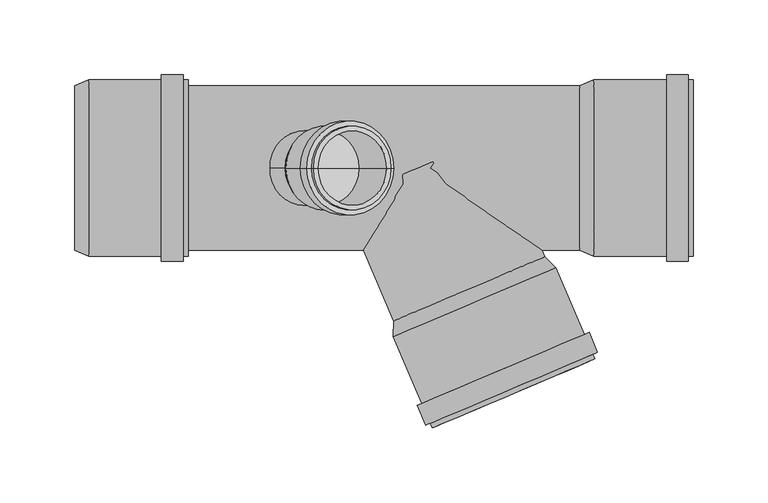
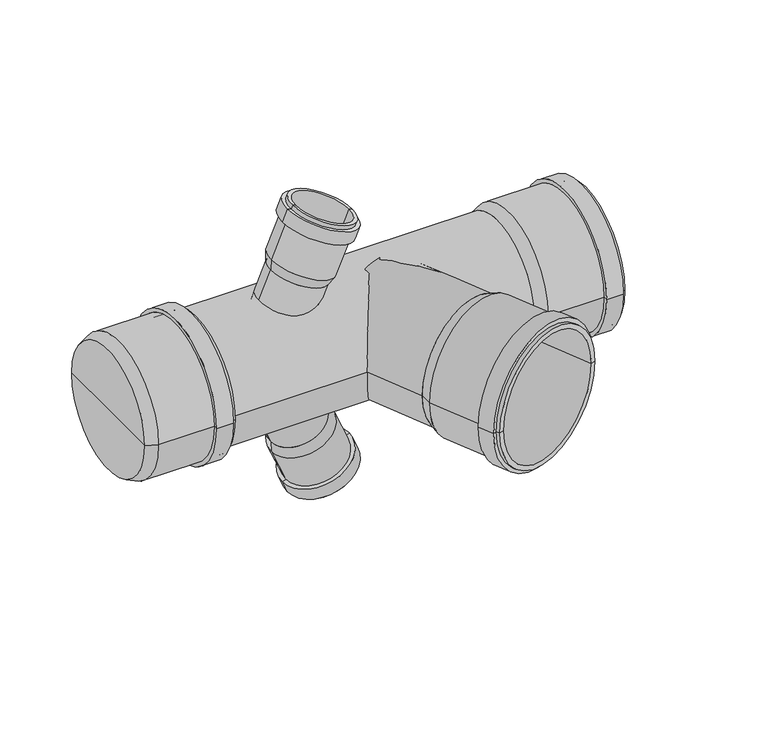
"""IFC4 building model written with IfcOpenShell, lengths in millimetres: pipe fitting geometry, pf_HTEPt : pf_HTEPt."""

from ifc_helpers import new_model, si_unit, point, frame, origin, origin_2d, place, context, project, spatial, polyline, circle_curve, trimmed, segment, composite_curve, outline, extrude, source, transform, mapped, element, save
from ifc_brep_helpers import plane_surface, cylinder_surface, revolved_surface, advanced_brep


def pipe_fitting_034da0cb(model_context):
    return source(origin(), model_context, "Body", "SolidModel", [
        advanced_brep(
        [(-42.782544, 0.0, 59.2695858), (-88.8077867, 0.0, 78.8061422), (-88.3401372, 0.0, 87.8417), (-36.6077644, 0.0, 65.8826106), (-65.7951654, 0.0, 69.037864), (-18.0480358, 0.0, 109.6065911), (-69.7804085, 0.0, 131.5656805), (-66.9268435, 0.0, 130.354414), (-20.9016008, 0.0, 110.8178576), (-19.3765216, 0.0, 106.4768746), (-71.1088944, 0.0, 128.435964), (-16.2468051, 0.0, 105.1483888), (-74.2386109, 0.0, 129.7644498), (-20.70114, 0.0, 94.6546334), (-78.6929458, 0.0, 119.2706945), (-23.8308565, 0.0, 95.9831193), (-75.5632293, 0.0, 117.9422087), (-39.4613294, 0.0, 67.0938771), (-85.4865721, 0.0, 86.6304335), (-62.4739508, 0.0, 76.8621553)],
        [
            (0, 1, circle_curve(frame((-65.7951654, 0.0, 69.037864), z_axis=(0.39073112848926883, 0.0, 0.9205048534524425), x_axis=(-0.9205048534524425, 0.0, 0.39073112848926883)), 25.0)),
            (1, 2),
            (2, 3, circle_curve(frame((-62.4739508, 0.0, 76.8621553), z_axis=(-0.39073112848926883, 0.0, -0.9205048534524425), x_axis=(-0.9205048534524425, 0.0, 0.39073112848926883)), 28.1)),
            (3, 0),
            (1, 0, circle_curve(frame((-65.7951654, 0.0, 69.037864), z_axis=(0.39073112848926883, 0.0, 0.9205048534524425), x_axis=(-0.9205048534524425, 0.0, 0.39073112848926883)), 25.0)),
            (3, 2, circle_curve(frame((-62.4739508, 0.0, 76.8621553), z_axis=(-0.39073112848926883, 0.0, -0.9205048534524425), x_axis=(-0.9205048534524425, 0.0, 0.39073112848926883)), 28.1)),
            (4, 1),
            (0, 4),
            (5, 6, circle_curve(frame((-43.9142222, 0.0, 120.5861358), z_axis=(0.39073112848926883, 0.0, 0.9205048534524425), x_axis=(-0.9205048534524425, 0.0, 0.39073112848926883)), 28.1)),
            (6, 7),
            (7, 8, circle_curve(frame((-43.9142222, 0.0, 120.5861358), z_axis=(-0.39073112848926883, 0.0, -0.9205048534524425), x_axis=(-0.9205048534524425, 0.0, 0.39073112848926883)), 25.0)),
            (8, 5),
            (6, 5, circle_curve(frame((-43.9142222, 0.0, 120.5861358), z_axis=(0.39073112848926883, 0.0, 0.9205048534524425), x_axis=(-0.9205048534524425, 0.0, 0.39073112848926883)), 28.1)),
            (8, 7, circle_curve(frame((-43.9142222, 0.0, 120.5861358), z_axis=(-0.39073112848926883, 0.0, -0.9205048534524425), x_axis=(-0.9205048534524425, 0.0, 0.39073112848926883)), 25.0)),
            (9, 10, circle_curve(frame((-45.242708, 0.0, 117.4564193), z_axis=(0.39073112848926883, 0.0, 0.9205048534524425), x_axis=(-0.9205048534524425, 0.0, 0.39073112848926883)), 28.1)),
            (10, 6),
            (5, 9),
            (10, 9, circle_curve(frame((-45.242708, 0.0, 117.4564193), z_axis=(0.39073112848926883, 0.0, 0.9205048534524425), x_axis=(-0.9205048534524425, 0.0, 0.39073112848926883)), 28.1)),
            (11, 12, circle_curve(frame((-45.242708, 0.0, 117.4564193), z_axis=(0.39073112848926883, 0.0, 0.9205048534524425), x_axis=(-0.9205048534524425, 0.0, 0.39073112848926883)), 31.5)),
            (12, 10),
            (9, 11),
            (12, 11, circle_curve(frame((-45.242708, 0.0, 117.4564193), z_axis=(0.39073112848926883, 0.0, 0.9205048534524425), x_axis=(-0.9205048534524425, 0.0, 0.39073112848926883)), 31.5)),
            (13, 14, circle_curve(frame((-49.6970429, 0.0, 106.962664), z_axis=(0.39073112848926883, 0.0, 0.9205048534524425), x_axis=(-0.9205048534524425, 0.0, 0.39073112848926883)), 31.5)),
            (14, 12),
            (11, 13),
            (14, 13, circle_curve(frame((-49.6970429, 0.0, 106.962664), z_axis=(0.39073112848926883, 0.0, 0.9205048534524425), x_axis=(-0.9205048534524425, 0.0, 0.39073112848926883)), 31.5)),
            (15, 16, circle_curve(frame((-49.6970429, 0.0, 106.962664), z_axis=(0.39073112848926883, 0.0, 0.9205048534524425), x_axis=(-0.9205048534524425, 0.0, 0.39073112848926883)), 28.1)),
            (16, 14),
            (13, 15),
            (16, 15, circle_curve(frame((-49.6970429, 0.0, 106.962664), z_axis=(0.39073112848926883, 0.0, 0.9205048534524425), x_axis=(-0.9205048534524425, 0.0, 0.39073112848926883)), 28.1)),
            (2, 16),
            (15, 3),
            (17, 18, circle_curve(frame((-62.4739508, 0.0, 76.8621553), z_axis=(0.39073112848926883, 0.0, 0.9205048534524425), x_axis=(-0.9205048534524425, 0.0, 0.39073112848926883)), 25.0)),
            (18, 19),
            (19, 17),
            (18, 17, circle_curve(frame((-62.4739508, 0.0, 76.8621553), z_axis=(0.39073112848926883, 0.0, 0.9205048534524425), x_axis=(-0.9205048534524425, 0.0, 0.39073112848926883)), 25.0)),
            (7, 18),
            (17, 8),
        ],
        [
            revolved_surface(polyline([(-88.3401372, 0.0, 87.8417), (-88.8077867, 0.0, 78.8061422)]), (-65.7951654, 0.0, 69.037864), (-0.39073112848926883, 0.0, -0.9205048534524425)),
            plane_surface(frame((-65.7951654, 0.0, 69.037864), z_axis=(-0.39073112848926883, 0.0, -0.9205048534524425), x_axis=(-0.9205048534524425, 0.0, 0.39073112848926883))),
            plane_surface(frame((-43.9142222, 0.0, 120.5861358), z_axis=(0.39073112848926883, 0.0, 0.9205048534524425), x_axis=(-0.9205048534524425, 0.0, 0.39073112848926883))),
            cylinder_surface(frame((-65.7951654, 0.0, 69.037864), z_axis=(-0.39073112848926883, 0.0, -0.9205048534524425), x_axis=(-0.9205048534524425, 0.0, 0.39073112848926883)), 28.1),
            plane_surface(frame((-45.242708, 0.0, 117.4564193), z_axis=(0.39073112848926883, 0.0, 0.9205048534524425), x_axis=(-0.9205048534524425, 0.0, 0.39073112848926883))),
            cylinder_surface(frame((-65.7951654, 0.0, 69.037864), z_axis=(-0.39073112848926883, 0.0, -0.9205048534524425), x_axis=(-0.9205048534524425, 0.0, 0.39073112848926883)), 31.5),
            plane_surface(frame((-49.6970429, 0.0, 106.962664), z_axis=(-0.39073112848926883, 0.0, -0.9205048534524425), x_axis=(-0.9205048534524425, 0.0, 0.39073112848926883))),
            plane_surface(frame((-62.4739508, 0.0, 76.8621553), z_axis=(0.39073112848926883, 0.0, 0.9205048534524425), x_axis=(-0.9205048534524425, 0.0, 0.39073112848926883))),
            revolved_surface(polyline([(-85.48657212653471, 0.0, 86.63043350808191), (-66.9268435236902, 0.0, 130.35441404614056)]), (-65.7951654, 0.0, 69.037864), (-0.39073112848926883, 0.0, -0.9205048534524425)),
        ],
        [
            (0, [[1, 2, 3, 4]]),
            (0, [[5, -4, 6, -2]]),
            (1, [[7, -1, 8]]),
            (1, [[-8, -5, -7]]),
            (2, [[9, 10, 11, 12]]),
            (2, [[13, -12, 14, -10]]),
            (3, [[15, 16, -9, 17]]),
            (3, [[18, -17, -13, -16]]),
            (4, [[19, 20, -15, 21]]),
            (4, [[22, -21, -18, -20]]),
            (5, [[23, 24, -19, 25]]),
            (5, [[26, -25, -22, -24]]),
            (6, [[27, 28, -23, 29]]),
            (6, [[30, -29, -26, -28]]),
            (3, [[-3, 31, -27, 32]]),
            (3, [[-6, -32, -30, -31]]),
            (7, [[33, 34, 35]]),
            (7, [[36, -35, -34]]),
            (8, [[-11, 37, -33, 38]]),
            (8, [[-14, -38, -36, -37]]),
        ],
    ),
        advanced_brep(
        [(-88.8077867, 0.0, -78.8061422), (-42.782544, 0.0, -59.2695858), (-36.6077644, 0.0, -65.8826106), (-88.3401372, 0.0, -87.8417), (-65.7951654, 0.0, -69.037864), (-69.7804085, 0.0, -131.5656805), (-18.0480358, 0.0, -109.6065911), (-20.9016008, 0.0, -110.8178576), (-66.9268435, 0.0, -130.354414), (-71.1088944, 0.0, -128.435964), (-19.3765216, 0.0, -106.4768746), (-74.2386109, 0.0, -129.7644498), (-16.2468051, 0.0, -105.1483888), (-78.6929458, 0.0, -119.2706945), (-20.70114, 0.0, -94.6546334), (-75.5632293, 0.0, -117.9422087), (-23.8308565, 0.0, -95.9831193), (-85.4865721, 0.0, -86.6304335), (-39.4613294, 0.0, -67.0938771), (-62.4739508, 0.0, -76.8621553)],
        [
            (0, 1, circle_curve(frame((-65.7951654, 0.0, -69.037864), z_axis=(0.39073112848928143, 0.0, -0.920504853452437), x_axis=(0.920504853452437, 0.0, 0.39073112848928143)), 25.0)),
            (1, 2),
            (2, 3, circle_curve(frame((-62.4739508, 0.0, -76.8621553), z_axis=(-0.39073112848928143, 0.0, 0.920504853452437), x_axis=(0.920504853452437, 0.0, 0.39073112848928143)), 28.1)),
            (3, 0),
            (1, 0, circle_curve(frame((-65.7951654, 0.0, -69.037864), z_axis=(0.39073112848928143, 0.0, -0.920504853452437), x_axis=(0.920504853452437, 0.0, 0.39073112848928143)), 25.0)),
            (3, 2, circle_curve(frame((-62.4739508, 0.0, -76.8621553), z_axis=(-0.39073112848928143, 0.0, 0.920504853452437), x_axis=(0.920504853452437, 0.0, 0.39073112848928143)), 28.1)),
            (4, 1),
            (0, 4),
            (5, 6, circle_curve(frame((-43.9142222, 0.0, -120.5861358), z_axis=(0.39073112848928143, 0.0, -0.920504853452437), x_axis=(0.920504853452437, 0.0, 0.39073112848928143)), 28.1)),
            (6, 7),
            (7, 8, circle_curve(frame((-43.9142222, 0.0, -120.5861358), z_axis=(-0.39073112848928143, 0.0, 0.920504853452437), x_axis=(0.920504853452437, 0.0, 0.39073112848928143)), 25.0)),
            (8, 5),
            (6, 5, circle_curve(frame((-43.9142222, 0.0, -120.5861358), z_axis=(0.39073112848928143, 0.0, -0.920504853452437), x_axis=(0.920504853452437, 0.0, 0.39073112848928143)), 28.1)),
            (8, 7, circle_curve(frame((-43.9142222, 0.0, -120.5861358), z_axis=(-0.39073112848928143, 0.0, 0.920504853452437), x_axis=(0.920504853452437, 0.0, 0.39073112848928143)), 25.0)),
            (9, 10, circle_curve(frame((-45.242708, 0.0, -117.4564193), z_axis=(0.39073112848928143, 0.0, -0.920504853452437), x_axis=(0.920504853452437, 0.0, 0.39073112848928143)), 28.1)),
            (10, 6),
            (5, 9),
            (10, 9, circle_curve(frame((-45.242708, 0.0, -117.4564193), z_axis=(0.39073112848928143, 0.0, -0.920504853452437), x_axis=(0.920504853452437, 0.0, 0.39073112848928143)), 28.1)),
            (11, 12, circle_curve(frame((-45.242708, 0.0, -117.4564193), z_axis=(0.39073112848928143, 0.0, -0.920504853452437), x_axis=(0.920504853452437, 0.0, 0.39073112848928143)), 31.5)),
            (12, 10),
            (9, 11),
            (12, 11, circle_curve(frame((-45.242708, 0.0, -117.4564193), z_axis=(0.39073112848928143, 0.0, -0.920504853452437), x_axis=(0.920504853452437, 0.0, 0.39073112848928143)), 31.5)),
            (13, 14, circle_curve(frame((-49.6970429, 0.0, -106.962664), z_axis=(0.39073112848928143, 0.0, -0.920504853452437), x_axis=(0.920504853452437, 0.0, 0.39073112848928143)), 31.5)),
            (14, 12),
            (11, 13),
            (14, 13, circle_curve(frame((-49.6970429, 0.0, -106.962664), z_axis=(0.39073112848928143, 0.0, -0.920504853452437), x_axis=(0.920504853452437, 0.0, 0.39073112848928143)), 31.5)),
            (15, 16, circle_curve(frame((-49.6970429, 0.0, -106.962664), z_axis=(0.39073112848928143, 0.0, -0.920504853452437), x_axis=(0.920504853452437, 0.0, 0.39073112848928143)), 28.1)),
            (16, 14),
            (13, 15),
            (16, 15, circle_curve(frame((-49.6970429, 0.0, -106.962664), z_axis=(0.39073112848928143, 0.0, -0.920504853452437), x_axis=(0.920504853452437, 0.0, 0.39073112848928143)), 28.1)),
            (2, 16),
            (15, 3),
            (17, 18, circle_curve(frame((-62.4739508, 0.0, -76.8621553), z_axis=(0.39073112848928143, 0.0, -0.920504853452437), x_axis=(0.920504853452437, 0.0, 0.39073112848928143)), 25.0)),
            (18, 19),
            (19, 17),
            (18, 17, circle_curve(frame((-62.4739508, 0.0, -76.8621553), z_axis=(0.39073112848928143, 0.0, -0.920504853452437), x_axis=(0.920504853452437, 0.0, 0.39073112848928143)), 25.0)),
            (7, 18),
            (17, 8),
        ],
        [
            revolved_surface(polyline([(-36.6077644, 0.0, -65.8826106), (-42.782544, 0.0, -59.2695858)]), (-65.7951654, 0.0, -69.037864), (-0.39073112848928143, 0.0, 0.920504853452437)),
            plane_surface(frame((-65.7951654, 0.0, -69.037864), z_axis=(-0.39073112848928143, 0.0, 0.920504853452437), x_axis=(0.920504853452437, 0.0, 0.39073112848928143))),
            plane_surface(frame((-43.9142222, 0.0, -120.5861358), z_axis=(0.39073112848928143, 0.0, -0.920504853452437), x_axis=(0.920504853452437, 0.0, 0.39073112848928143))),
            cylinder_surface(frame((-65.7951654, 0.0, -69.037864), z_axis=(-0.39073112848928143, 0.0, 0.920504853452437), x_axis=(0.920504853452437, 0.0, 0.39073112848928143)), 28.1),
            plane_surface(frame((-45.242708, 0.0, -117.4564193), z_axis=(0.39073112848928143, 0.0, -0.920504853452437), x_axis=(0.920504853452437, 0.0, 0.39073112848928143))),
            cylinder_surface(frame((-65.7951654, 0.0, -69.037864), z_axis=(-0.39073112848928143, 0.0, 0.920504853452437), x_axis=(0.920504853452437, 0.0, 0.39073112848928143)), 31.5),
            plane_surface(frame((-49.6970429, 0.0, -106.962664), z_axis=(-0.39073112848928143, 0.0, 0.920504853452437), x_axis=(0.920504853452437, 0.0, 0.39073112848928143))),
            plane_surface(frame((-62.4739508, 0.0, -76.8621553), z_axis=(0.39073112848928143, 0.0, -0.920504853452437), x_axis=(0.920504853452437, 0.0, 0.39073112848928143))),
            revolved_surface(polyline([(-39.4613294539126, 0.0, -67.0938770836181), (-20.901600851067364, 0.0, -110.81785762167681)]), (-65.7951654, 0.0, -69.037864), (-0.39073112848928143, 0.0, 0.920504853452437)),
        ],
        [
            (0, [[1, 2, 3, 4]]),
            (0, [[5, -4, 6, -2]]),
            (1, [[7, -1, 8]]),
            (1, [[-8, -5, -7]]),
            (2, [[9, 10, 11, 12]]),
            (2, [[13, -12, 14, -10]]),
            (3, [[15, 16, -9, 17]]),
            (3, [[18, -17, -13, -16]]),
            (4, [[19, 20, -15, 21]]),
            (4, [[22, -21, -18, -20]]),
            (5, [[23, 24, -19, 25]]),
            (5, [[26, -25, -22, -24]]),
            (6, [[27, 28, -23, 29]]),
            (6, [[30, -29, -26, -28]]),
            (3, [[-3, 31, -27, 32]]),
            (3, [[-6, -32, -30, -31]]),
            (7, [[33, 34, 35]]),
            (7, [[36, -35, -34]]),
            (8, [[-11, 37, -33, 38]]),
            (8, [[-14, -38, -36, -37]]),
        ],
    ),
        advanced_brep(
        [(-16.2825007, -102.4025887, 0.0), (84.9730331, -59.4221646, 0.0), (92.4590488, -66.564963, 0.0), (-16.3446249, -112.7493824, 0.0), (34.3452662, -80.9123766, 0.0), (9.6389951, -173.9629552, 0.0), (118.4426688, -127.7785358, 0.0), (114.6685989, -129.3805334, 0.0), (13.413065, -172.3609575, 0.0), (8.3105093, -170.8332387, 0.0), (117.114183, -124.6488193, 0.0), (5.1807928, -172.1617245, 0.0), (120.2438995, -123.3203334, 0.0), (-0.4848086, -158.8144041, 0.0), (114.5782981, -109.9730131, 0.0), (2.6449079, -157.4859183, 0.0), (111.4485816, -111.3014989, 0.0), (-12.570555, -111.1473848, 0.0), (88.6849789, -68.1669607, 0.0), (38.0572119, -89.6571727, 0.0)],
        [
            (0, 1, circle_curve(frame((34.3452662, -80.9123766, 0.0), z_axis=(0.3907311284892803, -0.9205048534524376, 0.0), x_axis=(0.9205048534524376, 0.3907311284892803, 0.0)), 55.0)),
            (1, 2),
            (2, 3, circle_curve(frame((38.0572119, -89.6571727, 0.0), z_axis=(-0.3907311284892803, 0.9205048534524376, 0.0), x_axis=(0.9205048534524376, 0.3907311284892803, 0.0)), 59.1)),
            (3, 0),
            (1, 0, circle_curve(frame((34.3452662, -80.9123766, 0.0), z_axis=(0.3907311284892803, -0.9205048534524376, 0.0), x_axis=(0.9205048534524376, 0.3907311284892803, 0.0)), 55.0)),
            (3, 2, circle_curve(frame((38.0572119, -89.6571727, 0.0), z_axis=(-0.3907311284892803, 0.9205048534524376, 0.0), x_axis=(0.9205048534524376, 0.3907311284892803, 0.0)), 59.1)),
            (4, 1),
            (0, 4),
            (5, 6, circle_curve(frame((64.040832, -150.8707455, 0.0), z_axis=(0.3907311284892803, -0.9205048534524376, 0.0), x_axis=(0.9205048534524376, 0.3907311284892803, 0.0)), 59.1)),
            (6, 7),
            (7, 8, circle_curve(frame((64.040832, -150.8707455, 0.0), z_axis=(-0.3907311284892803, 0.9205048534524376, 0.0), x_axis=(0.9205048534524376, 0.3907311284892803, 0.0)), 55.0)),
            (8, 5),
            (6, 5, circle_curve(frame((64.040832, -150.8707455, 0.0), z_axis=(0.3907311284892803, -0.9205048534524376, 0.0), x_axis=(0.9205048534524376, 0.3907311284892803, 0.0)), 59.1)),
            (8, 7, circle_curve(frame((64.040832, -150.8707455, 0.0), z_axis=(-0.3907311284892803, 0.9205048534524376, 0.0), x_axis=(0.9205048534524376, 0.3907311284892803, 0.0)), 55.0)),
            (9, 10, circle_curve(frame((62.7123461, -147.741029, 0.0), z_axis=(0.3907311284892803, -0.9205048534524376, 0.0), x_axis=(0.9205048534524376, 0.3907311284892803, 0.0)), 59.1)),
            (10, 6),
            (5, 9),
            (10, 9, circle_curve(frame((62.7123461, -147.741029, 0.0), z_axis=(0.3907311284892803, -0.9205048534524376, 0.0), x_axis=(0.9205048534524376, 0.3907311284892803, 0.0)), 59.1)),
            (11, 12, circle_curve(frame((62.7123461, -147.741029, 0.0), z_axis=(0.3907311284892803, -0.9205048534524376, 0.0), x_axis=(0.9205048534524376, 0.3907311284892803, 0.0)), 62.5)),
            (12, 10),
            (9, 11),
            (12, 11, circle_curve(frame((62.7123461, -147.741029, 0.0), z_axis=(0.3907311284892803, -0.9205048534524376, 0.0), x_axis=(0.9205048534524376, 0.3907311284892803, 0.0)), 62.5)),
            (13, 14, circle_curve(frame((57.0467448, -134.3937086, 0.0), z_axis=(0.3907311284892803, -0.9205048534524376, 0.0), x_axis=(0.9205048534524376, 0.3907311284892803, 0.0)), 62.5)),
            (14, 12),
            (11, 13),
            (14, 13, circle_curve(frame((57.0467448, -134.3937086, 0.0), z_axis=(0.3907311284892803, -0.9205048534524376, 0.0), x_axis=(0.9205048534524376, 0.3907311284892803, 0.0)), 62.5)),
            (15, 16, circle_curve(frame((57.0467448, -134.3937086, 0.0), z_axis=(0.3907311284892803, -0.9205048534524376, 0.0), x_axis=(0.9205048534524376, 0.3907311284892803, 0.0)), 59.1)),
            (16, 14),
            (13, 15),
            (16, 15, circle_curve(frame((57.0467448, -134.3937086, 0.0), z_axis=(0.3907311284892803, -0.9205048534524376, 0.0), x_axis=(0.9205048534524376, 0.3907311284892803, 0.0)), 59.1)),
            (2, 16),
            (15, 3),
            (17, 18, circle_curve(frame((38.0572119, -89.6571727, 0.0), z_axis=(0.3907311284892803, -0.9205048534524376, 0.0), x_axis=(0.9205048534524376, 0.3907311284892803, 0.0)), 55.0)),
            (18, 19),
            (19, 17),
            (18, 17, circle_curve(frame((38.0572119, -89.6571727, 0.0), z_axis=(0.3907311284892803, -0.9205048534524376, 0.0), x_axis=(0.9205048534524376, 0.3907311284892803, 0.0)), 55.0)),
            (7, 18),
            (17, 8),
        ],
        [
            revolved_surface(polyline([(92.4590488, -66.564963, 0.0), (84.9730331, -59.4221646, 0.0)]), (34.3452662, -80.9123766, 0.0), (-0.3907311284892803, 0.9205048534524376, 0.0)),
            plane_surface(frame((34.3452662, -80.9123766, 0.0), z_axis=(-0.3907311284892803, 0.9205048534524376, 0.0), x_axis=(0.9205048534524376, 0.3907311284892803, 0.0))),
            plane_surface(frame((64.040832, -150.8707455, 0.0), z_axis=(0.3907311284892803, -0.9205048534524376, 0.0), x_axis=(0.9205048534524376, 0.3907311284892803, 0.0))),
            cylinder_surface(frame((34.3452662, -80.9123766, 0.0), z_axis=(-0.3907311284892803, 0.9205048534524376, 0.0), x_axis=(0.9205048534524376, 0.3907311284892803, 0.0)), 59.1),
            plane_surface(frame((62.7123461, -147.741029, 0.0), z_axis=(0.3907311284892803, -0.9205048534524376, 0.0), x_axis=(0.9205048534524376, 0.3907311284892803, 0.0))),
            cylinder_surface(frame((34.3452662, -80.9123766, 0.0), z_axis=(-0.3907311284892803, 0.9205048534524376, 0.0), x_axis=(0.9205048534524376, 0.3907311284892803, 0.0)), 62.5),
            plane_surface(frame((57.0467448, -134.3937086, 0.0), z_axis=(-0.3907311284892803, 0.9205048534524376, 0.0), x_axis=(0.9205048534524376, 0.3907311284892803, 0.0))),
            plane_surface(frame((38.0572119, -89.6571727, 0.0), z_axis=(0.3907311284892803, -0.9205048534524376, 0.0), x_axis=(0.9205048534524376, 0.3907311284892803, 0.0))),
            revolved_surface(polyline([(88.68497885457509, -68.16696062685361, 0.0), (114.66859892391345, -129.3805334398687, 0.0)]), (34.3452662, -80.9123766, 0.0), (-0.3907311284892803, 0.9205048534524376, 0.0)),
        ],
        [
            (0, [[1, 2, 3, 4]]),
            (0, [[5, -4, 6, -2]]),
            (1, [[7, -1, 8]]),
            (1, [[-8, -5, -7]]),
            (2, [[9, 10, 11, 12]]),
            (2, [[13, -12, 14, -10]]),
            (3, [[15, 16, -9, 17]]),
            (3, [[18, -17, -13, -16]]),
            (4, [[19, 20, -15, 21]]),
            (4, [[22, -21, -18, -20]]),
            (5, [[23, 24, -19, 25]]),
            (5, [[26, -25, -22, -24]]),
            (6, [[27, 28, -23, 29]]),
            (6, [[30, -29, -26, -28]]),
            (3, [[-3, 31, -27, 32]]),
            (3, [[-6, -32, -30, -31]]),
            (7, [[33, 34, 35]]),
            (7, [[36, -35, -34]]),
            (8, [[-11, 37, -33, 38]]),
            (8, [[-14, -38, -36, -37]]),
        ],
    ),
        advanced_brep(
        [(108.4, -55.0, 0.0), (108.4, 55.0, 0.0), (117.9, 59.1, 0.0), (117.9, -59.1, 0.0), (108.4, 0.0, 0.0), (184.4, -59.1, 0.0), (184.4, 59.1, 0.0), (184.4, 55.0, 0.0), (184.4, -55.0, 0.0), (181.0, -59.1, 0.0), (181.0, 59.1, 0.0), (181.0, -62.5, 0.0), (181.0, 62.5, 0.0), (166.5, -62.5, 0.0), (166.5, 62.5, 0.0), (166.5, -59.1, 0.0), (166.5, 59.1, 0.0), (117.9, -55.0, 0.0), (117.9, 55.0, 0.0), (117.9, 0.0, 0.0)],
        [
            (0, 1, circle_curve(frame((108.4, 0.0, 0.0), z_axis=(1.0, 0.0, 0.0), x_axis=(0.0, 1.0, 0.0)), 55.0)),
            (1, 2),
            (2, 3, circle_curve(frame((117.9, 0.0, 0.0), z_axis=(-1.0, 0.0, 0.0), x_axis=(0.0, 1.0, 0.0)), 59.1)),
            (3, 0),
            (1, 0, circle_curve(frame((108.4, 0.0, 0.0), z_axis=(1.0, 0.0, 0.0), x_axis=(0.0, 1.0, 0.0)), 55.0)),
            (3, 2, circle_curve(frame((117.9, 0.0, 0.0), z_axis=(-1.0, 0.0, 0.0), x_axis=(0.0, 1.0, 0.0)), 59.1)),
            (4, 1),
            (0, 4),
            (5, 6, circle_curve(frame((184.4, 0.0, 0.0), z_axis=(1.0, 0.0, 0.0), x_axis=(0.0, 1.0, 0.0)), 59.1)),
            (6, 7),
            (7, 8, circle_curve(frame((184.4, 0.0, 0.0), z_axis=(-1.0, 0.0, 0.0), x_axis=(0.0, 1.0, 0.0)), 55.0)),
            (8, 5),
            (6, 5, circle_curve(frame((184.4, 0.0, 0.0), z_axis=(1.0, 0.0, 0.0), x_axis=(0.0, 1.0, 0.0)), 59.1)),
            (8, 7, circle_curve(frame((184.4, 0.0, 0.0), z_axis=(-1.0, 0.0, 0.0), x_axis=(0.0, 1.0, 0.0)), 55.0)),
            (9, 10, circle_curve(frame((181.0, 0.0, 0.0), z_axis=(1.0, 0.0, 0.0), x_axis=(0.0, 1.0, 0.0)), 59.1)),
            (10, 6),
            (5, 9),
            (10, 9, circle_curve(frame((181.0, 0.0, 0.0), z_axis=(1.0, 0.0, 0.0), x_axis=(0.0, 1.0, 0.0)), 59.1)),
            (11, 12, circle_curve(frame((181.0, 0.0, 0.0), z_axis=(1.0, 0.0, 0.0), x_axis=(0.0, 1.0, 0.0)), 62.5)),
            (12, 10),
            (9, 11),
            (12, 11, circle_curve(frame((181.0, 0.0, 0.0), z_axis=(1.0, 0.0, 0.0), x_axis=(0.0, 1.0, 0.0)), 62.5)),
            (13, 14, circle_curve(frame((166.5, 0.0, 0.0), z_axis=(1.0, 0.0, 0.0), x_axis=(0.0, 1.0, 0.0)), 62.5)),
            (14, 12),
            (11, 13),
            (14, 13, circle_curve(frame((166.5, 0.0, 0.0), z_axis=(1.0, 0.0, 0.0), x_axis=(0.0, 1.0, 0.0)), 62.5)),
            (15, 16, circle_curve(frame((166.5, 0.0, 0.0), z_axis=(1.0, 0.0, 0.0), x_axis=(0.0, 1.0, 0.0)), 59.1)),
            (16, 14),
            (13, 15),
            (16, 15, circle_curve(frame((166.5, 0.0, 0.0), z_axis=(1.0, 0.0, 0.0), x_axis=(0.0, 1.0, 0.0)), 59.1)),
            (2, 16),
            (15, 3),
            (17, 18, circle_curve(frame((117.9, 0.0, 0.0), z_axis=(1.0, 0.0, 0.0), x_axis=(0.0, 1.0, 0.0)), 55.0)),
            (18, 19),
            (19, 17),
            (18, 17, circle_curve(frame((117.9, 0.0, 0.0), z_axis=(1.0, 0.0, 0.0), x_axis=(0.0, 1.0, 0.0)), 55.0)),
            (7, 18),
            (17, 8),
        ],
        [
            revolved_surface(polyline([(117.9, 59.1, 0.0), (108.4, 55.0, 0.0)]), (108.4, 0.0, 0.0), (-1.0, 0.0, 0.0)),
            plane_surface(frame((108.4, 0.0, 0.0), z_axis=(-1.0, 0.0, 0.0), x_axis=(0.0, 1.0, 0.0))),
            plane_surface(frame((184.4, 0.0, 0.0), z_axis=(1.0, 0.0, 0.0), x_axis=(0.0, 1.0, 0.0))),
            cylinder_surface(frame((108.4, 0.0, 0.0), z_axis=(-1.0, 0.0, 0.0), x_axis=(0.0, 1.0, 0.0)), 59.1),
            plane_surface(frame((181.0, 0.0, 0.0), z_axis=(1.0, 0.0, 0.0), x_axis=(0.0, 1.0, 0.0))),
            cylinder_surface(frame((108.4, 0.0, 0.0), z_axis=(-1.0, 0.0, 0.0), x_axis=(0.0, 1.0, 0.0)), 62.5),
            plane_surface(frame((166.5, 0.0, 0.0), z_axis=(-1.0, 0.0, 0.0), x_axis=(0.0, 1.0, 0.0))),
            plane_surface(frame((117.9, 0.0, 0.0), z_axis=(1.0, 0.0, 0.0), x_axis=(0.0, 1.0, 0.0))),
            revolved_surface(polyline([(117.9, 55.0, 0.0), (184.4, 55.0, 0.0)]), (108.4, 0.0, 0.0), (-1.0, 0.0, 0.0)),
        ],
        [
            (0, [[1, 2, 3, 4]]),
            (0, [[5, -4, 6, -2]]),
            (1, [[7, -1, 8]]),
            (1, [[-8, -5, -7]]),
            (2, [[9, 10, 11, 12]]),
            (2, [[13, -12, 14, -10]]),
            (3, [[15, 16, -9, 17]]),
            (3, [[18, -17, -13, -16]]),
            (4, [[19, 20, -15, 21]]),
            (4, [[22, -21, -18, -20]]),
            (5, [[23, 24, -19, 25]]),
            (5, [[26, -25, -22, -24]]),
            (6, [[27, 28, -23, 29]]),
            (6, [[30, -29, -26, -28]]),
            (3, [[-3, 31, -27, 32]]),
            (3, [[-6, -32, -30, -31]]),
            (7, [[33, 34, 35]]),
            (7, [[36, -35, -34]]),
            (8, [[-11, 37, -33, 38]]),
            (8, [[-14, -38, -36, -37]]),
        ],
    ),
        advanced_brep(
        [(-229.7, -55.0, 0.0), (-229.7, 55.0, 0.0), (-220.2, 59.1, 0.0), (-220.2, -59.1, 0.0), (-229.7, 0.0, 0.0), (-153.7, -59.1, 0.0), (-153.7, 59.1, 0.0), (-153.7, 55.0, 0.0), (-153.7, -55.0, 0.0), (-157.1, -59.1, 0.0), (-157.1, 59.1, 0.0), (-157.1, -62.5, 0.0), (-157.1, 62.5, 0.0), (-171.6, -62.5, 0.0), (-171.6, 62.5, 0.0), (-171.6, -59.1, 0.0), (-171.6, 59.1, 0.0), (-220.2, -55.0, 0.0), (-220.2, 55.0, 0.0), (-220.2, 0.0, 0.0)],
        [
            (0, 1, circle_curve(frame((-229.7, 0.0, 0.0), z_axis=(1.0, 0.0, 0.0), x_axis=(0.0, 1.0, 0.0)), 55.0)),
            (1, 2),
            (2, 3, circle_curve(frame((-220.2, 0.0, 0.0), z_axis=(-1.0, 0.0, 0.0), x_axis=(0.0, 1.0, 0.0)), 59.1)),
            (3, 0),
            (1, 0, circle_curve(frame((-229.7, 0.0, 0.0), z_axis=(1.0, 0.0, 0.0), x_axis=(0.0, 1.0, 0.0)), 55.0)),
            (3, 2, circle_curve(frame((-220.2, 0.0, 0.0), z_axis=(-1.0, 0.0, 0.0), x_axis=(0.0, 1.0, 0.0)), 59.1)),
            (4, 1),
            (0, 4),
            (5, 6, circle_curve(frame((-153.7, 0.0, 0.0), z_axis=(1.0, 0.0, 0.0), x_axis=(0.0, 1.0, 0.0)), 59.1)),
            (6, 7),
            (7, 8, circle_curve(frame((-153.7, 0.0, 0.0), z_axis=(-1.0, 0.0, 0.0), x_axis=(0.0, 1.0, 0.0)), 55.0)),
            (8, 5),
            (6, 5, circle_curve(frame((-153.7, 0.0, 0.0), z_axis=(1.0, 0.0, 0.0), x_axis=(0.0, 1.0, 0.0)), 59.1)),
            (8, 7, circle_curve(frame((-153.7, 0.0, 0.0), z_axis=(-1.0, 0.0, 0.0), x_axis=(0.0, 1.0, 0.0)), 55.0)),
            (9, 10, circle_curve(frame((-157.1, 0.0, 0.0), z_axis=(1.0, 0.0, 0.0), x_axis=(0.0, 1.0, 0.0)), 59.1)),
            (10, 6),
            (5, 9),
            (10, 9, circle_curve(frame((-157.1, 0.0, 0.0), z_axis=(1.0, 0.0, 0.0), x_axis=(0.0, 1.0, 0.0)), 59.1)),
            (11, 12, circle_curve(frame((-157.1, 0.0, 0.0), z_axis=(1.0, 0.0, 0.0), x_axis=(0.0, 1.0, 0.0)), 62.5)),
            (12, 10),
            (9, 11),
            (12, 11, circle_curve(frame((-157.1, 0.0, 0.0), z_axis=(1.0, 0.0, 0.0), x_axis=(0.0, 1.0, 0.0)), 62.5)),
            (13, 14, circle_curve(frame((-171.6, 0.0, 0.0), z_axis=(1.0, 0.0, 0.0), x_axis=(0.0, 1.0, 0.0)), 62.5)),
            (14, 12),
            (11, 13),
            (14, 13, circle_curve(frame((-171.6, 0.0, 0.0), z_axis=(1.0, 0.0, 0.0), x_axis=(0.0, 1.0, 0.0)), 62.5)),
            (15, 16, circle_curve(frame((-171.6, 0.0, 0.0), z_axis=(1.0, 0.0, 0.0), x_axis=(0.0, 1.0, 0.0)), 59.1)),
            (16, 14),
            (13, 15),
            (16, 15, circle_curve(frame((-171.6, 0.0, 0.0), z_axis=(1.0, 0.0, 0.0), x_axis=(0.0, 1.0, 0.0)), 59.1)),
            (2, 16),
            (15, 3),
            (17, 18, circle_curve(frame((-220.2, 0.0, 0.0), z_axis=(1.0, 0.0, 0.0), x_axis=(0.0, 1.0, 0.0)), 55.0)),
            (18, 19),
            (19, 17),
            (18, 17, circle_curve(frame((-220.2, 0.0, 0.0), z_axis=(1.0, 0.0, 0.0), x_axis=(0.0, 1.0, 0.0)), 55.0)),
            (7, 18),
            (17, 8),
        ],
        [
            revolved_surface(polyline([(-220.2, 59.1, 0.0), (-229.7, 55.0, 0.0)]), (-229.7, 0.0, 0.0), (-1.0, 0.0, 0.0)),
            plane_surface(frame((-229.7, 0.0, 0.0), z_axis=(-1.0, 0.0, 0.0), x_axis=(0.0, 1.0, 0.0))),
            plane_surface(frame((-153.7, 0.0, 0.0), z_axis=(1.0, 0.0, 0.0), x_axis=(0.0, 1.0, 0.0))),
            cylinder_surface(frame((-229.7, 0.0, 0.0), z_axis=(-1.0, 0.0, 0.0), x_axis=(0.0, 1.0, 0.0)), 59.1),
            plane_surface(frame((-157.1, 0.0, 0.0), z_axis=(1.0, 0.0, 0.0), x_axis=(0.0, 1.0, 0.0))),
            cylinder_surface(frame((-229.7, 0.0, 0.0), z_axis=(-1.0, 0.0, 0.0), x_axis=(0.0, 1.0, 0.0)), 62.5),
            plane_surface(frame((-171.6, 0.0, 0.0), z_axis=(-1.0, 0.0, 0.0), x_axis=(0.0, 1.0, 0.0))),
            plane_surface(frame((-220.2, 0.0, 0.0), z_axis=(1.0, 0.0, 0.0), x_axis=(0.0, 1.0, 0.0))),
            revolved_surface(polyline([(-220.2, 55.0, 0.0), (-153.7, 55.0, 0.0)]), (-229.7, 0.0, 0.0), (-1.0, 0.0, 0.0)),
        ],
        [
            (0, [[1, 2, 3, 4]]),
            (0, [[5, -4, 6, -2]]),
            (1, [[7, -1, 8]]),
            (1, [[-8, -5, -7]]),
            (2, [[9, 10, 11, 12]]),
            (2, [[13, -12, 14, -10]]),
            (3, [[15, 16, -9, 17]]),
            (3, [[18, -17, -13, -16]]),
            (4, [[19, 20, -15, 21]]),
            (4, [[22, -21, -18, -20]]),
            (5, [[23, 24, -19, 25]]),
            (5, [[26, -25, -22, -24]]),
            (6, [[27, 28, -23, 29]]),
            (6, [[30, -29, -26, -28]]),
            (3, [[-3, 31, -27, 32]]),
            (3, [[-6, -32, -30, -31]]),
            (7, [[33, 34, 35]]),
            (7, [[36, -35, -34]]),
            (8, [[-11, 37, -33, 38]]),
            (8, [[-14, -38, -36, -37]]),
        ],
    ),
        extrude(outline(composite_curve([segment(trimmed(circle_curve(origin_2d(), 25.0), [point((0.0, 25.0))], [point((0.0, -25.0))], False, "CARTESIAN"), True, "CONTINUOUS"), segment(trimmed(circle_curve(origin_2d(), 25.0), [point((0.0, -25.0))], [point((0.0, 25.0))], False, "CARTESIAN"), True, "CONTINUOUS")], self_intersect=False)), frame((-95.1, 0.0, 0.0), z_axis=(0.39073112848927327, 0.0, 0.9205048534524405), x_axis=(0.0, -1.0, 0.0)), (0.0, 0.0, 1.0), 75.0),
        extrude(outline(composite_curve([segment(trimmed(circle_curve(origin_2d(), 25.0), [point((0.0, -25.0))], [point((0.0, 25.0000001))], False, "CARTESIAN"), True, "CONTINUOUS"), segment(trimmed(circle_curve(origin_2d(), 25.0), [point((0.0, 25.0000001))], [point((0.0, -25.0))], False, "CARTESIAN"), True, "CONTINUOUS")], self_intersect=False)), frame((-65.7951654, 0.0, -69.037864), z_axis=(-0.39073112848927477, 0.0, 0.9205048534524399), x_axis=(0.0, -1.0, 0.0)), (0.0, 0.0, 1.0), 75.0),
        extrude(outline(composite_curve([segment(trimmed(circle_curve(origin_2d(), 55.0), [point((0.0, -55.0))], [point((0.0, 54.9999999))], False, "CARTESIAN"), True, "CONTINUOUS"), segment(trimmed(circle_curve(origin_2d(), 55.0), [point((0.0, 54.9999999))], [point((0.0, -55.0))], False, "CARTESIAN"), True, "CONTINUOUS")], self_intersect=False)), frame((34.3452662, -80.9123766, 0.0), z_axis=(-0.39073112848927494, 0.9205048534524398, 0.0), x_axis=(0.0, 0.0, 1.0)), (0.0, 0.0, 1.0), 87.9),
        extrude(outline(composite_curve([segment(trimmed(circle_curve(origin_2d(), 55.0), [point((-55.0, 0.0))], [point((55.0, 0.0))], False, "CARTESIAN"), True, "CONTINUOUS"), segment(trimmed(circle_curve(origin_2d(), 55.0), [point((55.0, 0.0))], [point((-55.0, 0.0))], False, "CARTESIAN"), True, "CONTINUOUS")], self_intersect=False)), frame((-153.7, 0.0, 0.0), z_axis=(1.0, 0.0, 0.0), x_axis=(0.0, 1.0, 0.0)), (0.0, 0.0, 1.0), 262.1),
    ])


if __name__ == "__main__":
    model = new_model("IFC4")
    model_context = context("Model", 3, world=origin())
    ifc_project = project(units=[si_unit("LENGTHUNIT", "METRE", prefix="MILLI")], contexts=[model_context])
    site = spatial("IfcSite", under=ifc_project)
    building = spatial("IfcBuilding", under=site)
    placement = place(None, origin())
    pipe_fitting_shape = pipe_fitting_034da0cb(model_context)
    element("IfcPipeFitting", 1, ObjectType="pf_HTEPt : pf_HTEPt", at=placement, inside=building, context=model_context, shape_type="MappedRepresentation", body=[
        mapped(pipe_fitting_shape, transform((0.0, 0.0, 0.0), x_axis=(1.0, 0.0, 0.0), y_axis=(0.0, 1.0, 0.0), z_axis=(0.0, 0.0, 1.0))),
    ])
    save(model, "model.ifc")
